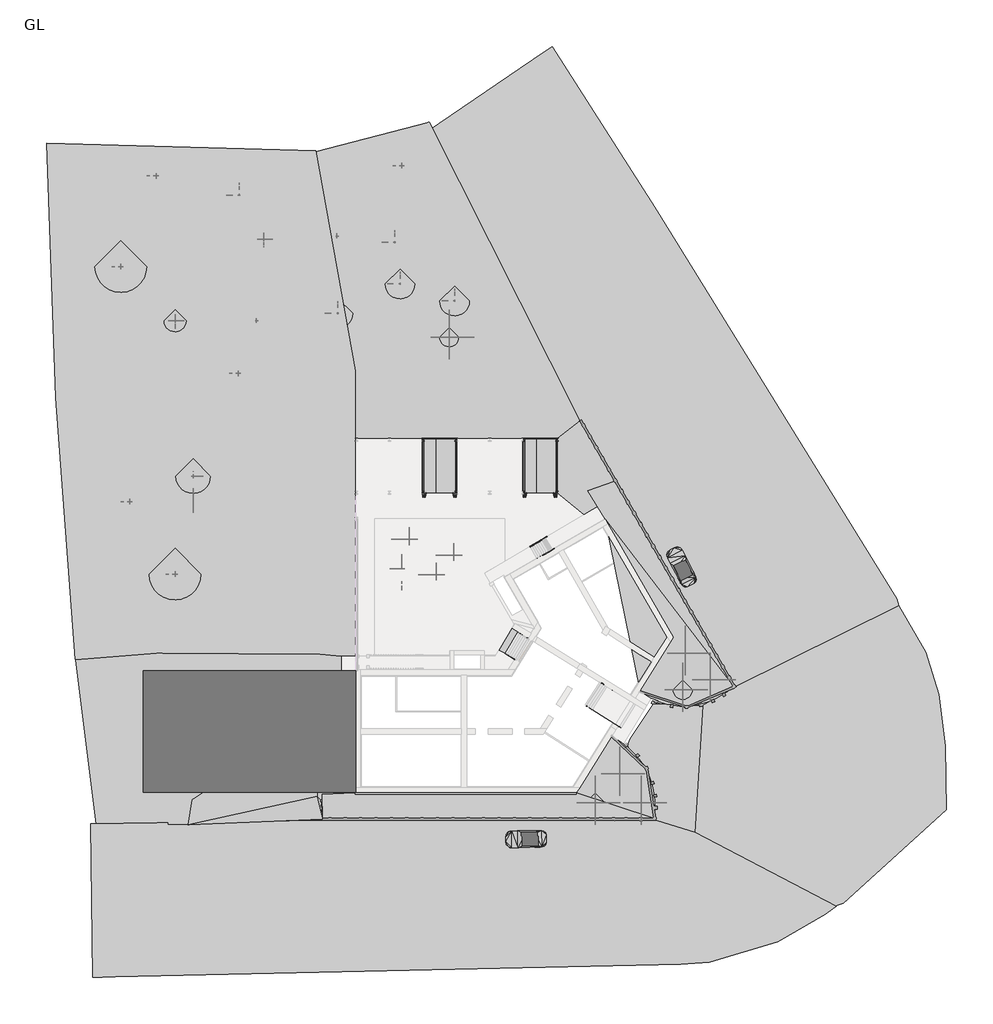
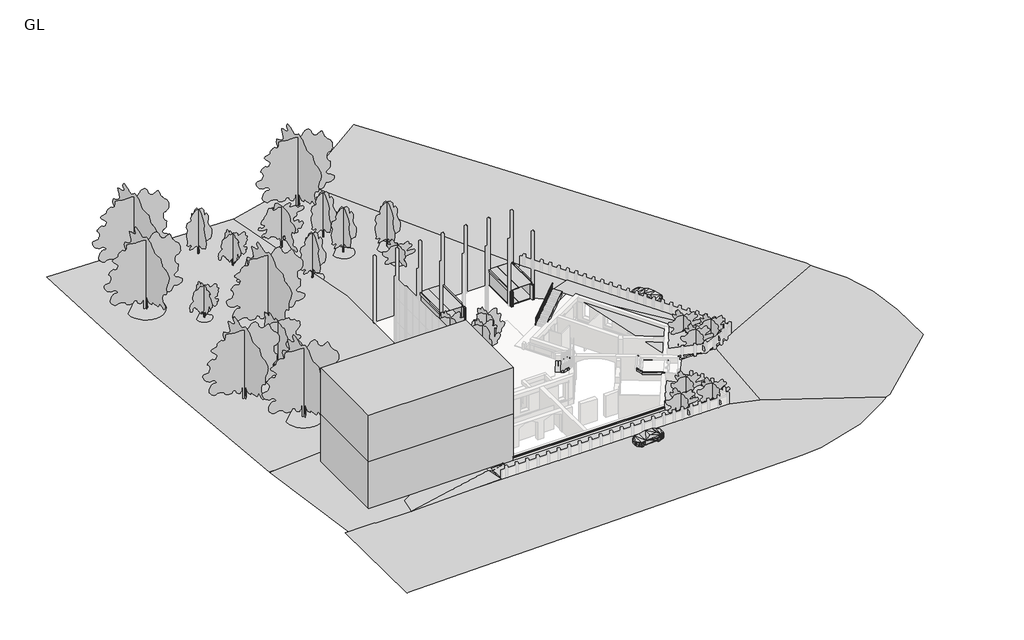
# One storey, part 6 of 6: 29 geographic elements, 18 proxies, 10 members, 1 railing.
"""IFC4 building model written with IfcOpenShell, lengths in millimetres."""

from ifc_helpers import new_model, si_unit, frame, origin, origin_with_axes, place, context, project, spatial, polyline, outline, extrude, faceted_brep, triangles, transform, mapped, element, save
from components import metal_blocks12_metal_blocks12_015d9ee2, enscape_assetdefinition_car_006_enscape_assetdefinition_car_d59dc931, enscape_assetdefinition_car_006_enscape_assetdefinition_car_de8ea857, planting_rpc_tree_deciduous_american_beech_6_0_meters_192016b0, planting_rpc_tree_deciduous_blue_berry_elder_4_5_meters_08da9c25, planting_rpc_tree_deciduous_golden_chain_5_5_meters_a00e3d8d, planting_rpc_tree_deciduous_hawthorn_7_4_meters_c28d403f, planting_rpc_tree_deciduous_kousa_dogwood_3_0_meters_e0625334, planting_rpc_tree_deciduous_red_ash_7_6_meters_16c8020d, planting_rpc_tree_deciduous_scarlet_oak_12_5_meters_78a4568a, planting_rpc_tree_deciduous_shumard_oak_9_1_meters_5c09a096

model = new_model("IFC4")

# Units and contexts
model_context = context("Model", 3, world=origin())
ifc_project = project(units=[si_unit("LENGTHUNIT", "METRE", prefix="MILLI")], contexts=[model_context])

# Site, building, storey
site = spatial("IfcSite", under=ifc_project)
building = spatial("IfcBuilding", under=site)
storey = spatial("IfcBuildingStorey", under=building, Name="GL", Elevation=0.0)

# Proxies
placement = place(None, origin())
element("IfcBuildingElementProxy", 1, Name="Building Element Proxy", at=placement, inside=storey, context=model_context, shape_type="Tessellation", body=[
    triangles([(-13431.6871216, -4009.9712242, 150.0000011), (-17048.7349457, -4137.4605354, 150.0000011), (-17011.6093048, -6794.9712891, 150.0000011), (19598.2409546, -6794.9712891, 150.0000011), (11034.8729553, -4009.9712242, 150.0000011)], [[2, 3, 1], [3, 5, 1], [5, 3, 4]], closed=False),
])
element("IfcBuildingElementProxy", 2, Name="Building Element Proxy", at=placement, inside=storey, context=model_context, shape_type="Tessellation", body=[
    triangles([(11034.8729553, -4009.9712242, 150.0000011), (14914.6617188, 2217.8670948, 150.0000011), (15665.3193878, 1814.3189072, 150.0000011), (16058.8674591, 1561.0352394, 150.0000011), (16536.2232056, 1209.3204432, 150.0000011), (16908.2132904, 896.4967323, 150.0000011), (17569.2520111, 237.6954841, 150.0000011), (17952.2937469, -220.8045274, 150.0000011), (18303.4071991, -707.7867393, 150.0000011), (18631.5069397, -1240.9075413, 150.0000011), (18917.1267151, -1792.9856163, 150.0000011), (19156.994632, -2353.8518177, 150.0000011), (19377.9753296, -3005.6749672, 150.0000011), (19550.6833923, -3701.7606766, 150.0000011), (19657.3419983, -4358.9885834, 150.0000011), (19705.1321045, -4892.1705734, 150.0000011), (19719.0335815, -5375.329454, 150.0000011), (19696.0187073, -5996.8124496, 150.0000011), (19637.5408813, -6542.7459869, 150.0000011), (19598.2409546, -6794.9712891, 150.0000011)], [[1, 7, 6], [7, 1, 8], [1, 9, 8], [9, 1, 10], [1, 11, 10], [2, 1, 3], [4, 3, 1], [1, 5, 4], [1, 6, 5], [19, 18, 1], [16, 1, 17], [17, 1, 18], [15, 1, 16], [1, 12, 11], [14, 13, 1], [12, 1, 13], [1, 15, 14], [20, 19, 1]], closed=False),
])
element("IfcBuildingElementProxy", 3, Name="Building Element Proxy", at=placement, inside=storey, context=model_context, shape_type="Tessellation", body=[
    triangles([(15261.9428467, 30451.4645325, 150.0000011), (12299.6573822, 29391.5455078, 150.0000011), (14217.1612701, 26261.0784485, 150.0000011), (28356.9481934, 7770.2489685, 150.0000011), (23405.7852905, 13280.451004, 150.0000011)], [[2, 3, 1], [1, 5, 4], [5, 1, 3]], closed=False),
])
element("IfcBuildingElementProxy", 4, Name="Building Element Proxy", at=placement, inside=storey, context=model_context, shape_type="Tessellation", body=[
    triangles([(23417.9543152, 13259.3708954, 150.0000011), (28356.9481934, 7770.2489685, 150.0000011), (28098.5290833, 7532.821019, 150.0000011), (27884.3189026, 7351.3954651, 150.0000011), (27694.0258667, 7200.8587234, 150.0000011), (27480.836554, 7043.1811386, 150.0000011), (27238.3350769, 6876.8918701, 150.0000011), (26894.0816711, 6662.7950546, 150.0000011), (26490.9155823, 6441.974231, 150.0000011), (26184.7179932, 6294.0733749, 150.0000011), (25952.725177, 6192.6725876, 150.0000011), (25426.5177612, 5994.6416519, 150.0000011), (25069.5953613, 5884.1832779, 150.0000011), (24713.0380554, 5792.1098282, 150.0000011), (24416.935199, 5729.0514679, 150.0000011), (24201.8460022, 5690.6857864, 150.0000011), (23833.6568481, 5639.2540421, 150.0000011), (23491.3916931, 5607.3100616, 150.0000011), (23207.2648499, 5484.6995224, 150.0000011), (22935.64422, 5587.5473145, 150.0000011), (22417.9781433, 5604.6916168, 150.0000011), (22125.0704407, 5629.6488144, 150.0000011), (21520.6119873, 5716.5719971, 150.0000011), (21047.8710754, 5818.7041351, 150.0000011), (20704.1711243, 5912.5158508, 150.0000011), (20497.2000366, 5977.2398071, 150.0000011), (20182.5657532, 6087.9225861, 150.0000011), (19874.9426697, 6211.0598373, 150.0000011), (19623.844043, 6323.0431183, 150.0000011), (19311.4828766, 6477.5482224, 150.0000011), (18333.8216217, 7083.9838806, 150.0000011), (18070.7155884, 7283.9635345, 150.0000011), (20034.2422485, 10622.1028015, 150.0000011), (21757.1510376, 13201.4325714, 150.0000011), (18881.0417084, 18183.0005951, 150.0000011), (14217.1612701, 26261.0784485, 150.0000011)], [[33, 26, 25], [33, 27, 26], [33, 25, 24], [18, 33, 20], [19, 20, 21], [33, 23, 22], [21, 22, 19], [33, 22, 21], [33, 24, 23], [33, 21, 20], [35, 32, 33], [36, 35, 1], [35, 36, 32], [32, 31, 33], [29, 28, 33], [29, 33, 30], [28, 27, 33], [33, 34, 35], [30, 33, 31], [33, 1, 34], [35, 34, 1], [20, 19, 18], [17, 16, 33], [17, 18, 19], [16, 15, 33], [15, 16, 19], [17, 19, 16], [1, 33, 15], [1, 14, 13], [12, 11, 1], [12, 1, 13], [1, 15, 14], [1, 11, 10], [9, 8, 1], [1, 7, 6], [7, 1, 8], [9, 1, 10], [4, 1, 5], [3, 2, 1], [1, 4, 3], [5, 1, 6], [1, 2, 36], [17, 33, 18]], closed=False),
])
element("IfcBuildingElementProxy", 5, Name="Building Element Proxy", at=placement, inside=storey, context=model_context, shape_type="Tessellation", body=[
    triangles([(-14931.6874237, 11097.2005463, 150.0000011), (-14931.6874237, 5145.617894, 150.0000011), (-15351.6873688, 5125.5545837, 150.0000011), (-17337.4475555, 11338.3544312, 150.0000011), (-18555.2743835, 10012.2760712, 150.0000011), (-18122.2694183, 6575.3003952, 150.0000011), (-18095.205954, 3977.2708946, 150.0000011), (-17878.7040527, 2028.7488419, 150.0000011), (-15331.6874268, 2885.5546829, 150.0000011), (-15351.6873688, 245.5547972, 150.0000011), (-14931.6874237, -488.0921914, 150.0000011), (-17499.8248535, -2734.3051941, 150.0000011), (-17635.1386871, -3816.8173164, 150.0000011), (-17635.1386871, -4358.0735229, 150.0000011), (-17229.1971863, -4764.0156052, 150.0000011), (-14931.6874237, -4141.5710403, 150.0000011), (-31492.8684082, -4782.902243, 1.5), (-35381.5729065, 11412.4057251, 1.5), (-17011.6093048, -6902.4711227, 1.5), (-31954.9588074, -7534.4238281, 1.5), (-42019.6072632, -7454.8612427, 1.5), (-44315.2345825, 10731.0194092, 1.5)], [[21, 20, 17], [17, 14, 13], [14, 17, 20], [13, 14, 15], [8, 17, 12], [20, 19, 14], [21, 17, 18], [18, 6, 5], [18, 22, 21], [18, 5, 4], [3, 6, 7], [7, 6, 18], [7, 18, 17], [9, 7, 8], [8, 7, 17], [5, 6, 1], [17, 13, 12], [13, 16, 12], [13, 15, 16], [16, 11, 12], [11, 2, 9], [16, 15, 19], [14, 19, 15], [12, 11, 10], [3, 1, 6], [8, 10, 9], [9, 3, 7], [5, 1, 4], [2, 1, 3], [9, 10, 11], [12, 10, 8], [2, 3, 9]], closed=False),
])
element("IfcBuildingElementProxy", 6, Name="Building Element Proxy", at=placement, inside=storey, context=model_context, shape_type="Tessellation", body=[
    triangles([(3954.3705482, 14193.2778442, 150.0000011), (4606.331044, 13782.0355042, 150.0000011), (3181.5296402, 11410.767453, 150.0000011), (2522.5091103, 11788.0886078, 150.0000011)], [[4, 3, 2], [2, 1, 4]], closed=False),
])
element("IfcBuildingElementProxy", 7, Name="Building Element Proxy", at=placement, inside=storey, context=model_context, shape_type="Tessellation", body=[
    triangles([(11585.0126312, 37250.0937378, 0.0), (25695.1757812, 44250.4059814, 0.0), (46461.0710449, 17442.7969391, 0.0), (28626.4294189, 7733.4948166, 0.0), (46698.5449219, 16662.788736, 0.0), (3561.642485, 50644.9365967, 1.5), (16309.6940094, 58830.6927612, 1.5), (18025.4055634, 59653.1123291, 1.5), (19697.3744385, 60767.7605713, 1.5), (10687.3174255, 71171.1255615, 1.5), (7436.2664474, 77859.001062, 1.5), (8365.1382385, 78509.2078857, 1.5), (-5382.164502, 69127.6084351, 1.5)], [[10, 13, 6], [1, 6, 4], [7, 10, 6], [11, 10, 12], [10, 11, 13], [12, 10, 9], [11, 12, 13], [6, 1, 7], [4, 5, 3], [4, 3, 2], [8, 9, 10], [8, 7, 2], [9, 2, 3], [2, 9, 8], [1, 2, 7], [8, 10, 7], [2, 1, 4]], closed=False),
])
element("IfcBuildingElementProxy", 8, Name="Building Element Proxy", at=placement, inside=storey, context=model_context, shape_type="Tessellation", body=[
    triangles([(28626.4294189, 7733.4948166, 0.0), (27448.5199219, 6707.5132553, 0.0), (26335.3204285, 6077.4842697, 0.0), (24978.9567078, 5636.5635086, 0.0), (38502.4917114, -9463.8450119, 0.0), (32668.1873657, -11285.1286102, 0.0), (29648.4716858, -12040.0569489, 0.0), (26399.9908997, -12017.1804382, 0.0), (23906.4384521, -11674.0316162, 0.0), (29625.6219177, -18458.5058716, 0.0), (26546.4959106, -21047.7687561, 0.0), (23327.4110046, -20697.8691833, 0.0), (40542.5206787, -16219.1413971, 0.0), (45021.2473022, -11670.4341614, 0.0), (51949.2802368, -5862.0840454, 0.0), (51809.3213379, 1205.9077154, 0.0), (51109.5175415, 6874.297261, 0.0), (49639.9374756, 11562.9651398, 0.0), (47680.4942871, 14502.1299225, 0.0), (46700.7726929, 16671.5137848, 0.0)], [[12, 8, 9], [8, 12, 10], [10, 7, 8], [10, 11, 13], [7, 10, 6], [10, 12, 11], [8, 7, 4], [9, 4, 12], [9, 8, 4], [2, 1, 4], [4, 7, 3], [2, 3, 6], [2, 4, 3], [2, 5, 1], [6, 3, 7], [1, 5, 17], [5, 6, 13], [13, 15, 14], [14, 15, 5], [13, 14, 5], [6, 10, 13], [5, 15, 16], [20, 19, 18], [1, 19, 20], [18, 19, 1], [17, 18, 1], [16, 17, 5], [2, 6, 5]], closed=False),
])
element("IfcBuildingElementProxy", 9, Name="Building Element Proxy", at=placement, inside=storey, context=model_context, shape_type="Tessellation", body=[
    triangles([(19465.615329, 6160.0408585, 0.0), (19299.1371185, 5925.6510956, 0.0), (19533.5937378, 5772.7627533, 0.0), (20401.7640015, 5782.3313553, 0.0)], [[1, 2, 3], [3, 4, 1]], closed=False),
])
element("IfcBuildingElementProxy", 10, Name="Building Element Proxy", at=placement, inside=storey, context=model_context, shape_type="Tessellation", body=[
    triangles([(20392.0204102, 5785.5753433, 0.0), (19533.5937378, 5772.7627533, 0.0), (17016.9903717, 1966.6950714, 0.0), (17928.6777466, 218.2412755, 0.0), (16756.4062775, 1349.2060181, 0.0), (16735.5901062, 1325.1115585, 0.0), (18937.0185242, -1351.6791229, 0.0), (19429.3640533, -2469.5716438, 0.0), (21836.4531738, 5448.0500153, 0.0), (23215.0946045, 5334.9040146, 0.0), (19900.1760132, -4612.1632462, 0.0), (19777.5788452, -7009.9709564, 0.0), (24101.5963074, 5457.5500168, 0.0), (24670.5708801, 5561.9907349, 0.0), (24992.5349487, 5640.1446854, 0.0), (24052.6132507, -8345.8684845, 0.0), (24096.2384949, -8392.6941147, 0.0)], [[1, 3, 4], [6, 11, 7], [10, 7, 8], [7, 11, 8], [7, 4, 6], [9, 4, 7], [6, 5, 3], [5, 6, 4], [3, 5, 4], [3, 1, 2], [12, 11, 6], [10, 9, 7], [10, 8, 13], [16, 15, 8], [16, 11, 12], [12, 17, 16], [15, 16, 17], [1, 9, 13], [1, 4, 9], [14, 15, 1], [13, 8, 14], [14, 8, 15], [14, 1, 13], [9, 10, 13], [8, 11, 16]], closed=False),
])
element("IfcBuildingElementProxy", 11, Name="Building Element Proxy", at=placement, inside=storey, context=model_context, shape_type="Tessellation", body=[
    triangles([(19825.9572876, -7024.7694717, 0.0), (24100.0010559, -8378.5287003, 0.0), (23332.0711853, -20695.2274841, 0.0), (-15307.1691559, -23072.6056274, 0.0), (-17011.6093048, -7009.9709564, 0.0), (-42444.1487915, -24409.7867981, 1.5), (-42629.9234985, -7411.4319168, 1.5), (22556.4348083, -22937.909198, 0.0), (25709.9725525, -22704.3141541, 0.0), (33301.8231079, -20485.1589111, 0.0), (35988.1684387, -18499.5975494, 0.0), (38557.718573, -17448.418689, 0.0), (39752.6665649, -16514.3966309, 0.0)], [[6, 8, 4], [4, 8, 1], [6, 4, 5], [6, 5, 7], [5, 4, 1], [8, 3, 1], [3, 9, 10], [9, 3, 8], [3, 10, 2], [2, 11, 13], [11, 2, 10], [12, 13, 11], [11, 10, 12], [3, 2, 1]], closed=False),
])
element("IfcBuildingElementProxy", 12, Name="Building Element Proxy", at=placement, inside=storey, context=model_context, shape_type="Tessellation", body=[
    triangles([(13410.7011932, 27655.4747314, 1.5), (11909.8160614, 26773.2983459, 1.5), (8903.2978317, 29190.0299011, 1.5), (8958.2973816, 35190.0287842, 1.5), (11398.8170197, 37142.5956482, 1.5), (15203.7533752, 30469.993634, 1.5)], [[4, 6, 5], [6, 4, 3], [1, 6, 3], [1, 3, 2]], closed=False),
])
element("IfcBuildingElementProxy", 13, Name="Building Element Proxy", at=placement, inside=storey, context=model_context, shape_type="Tessellation", body=[
    triangles([(11398.8170197, 37142.5956482, 1.5), (8928.2974686, 35190.0287842, 1.5), (-13431.6871216, 35190.0287842, 1.5), (-13532.4414368, 42504.8009033, 1.5), (2769.6565247, 49758.293042, 1.5), (3752.3500305, 50713.6858887, 1.5), (-15059.9063416, 50539.766272, 1.5), (-299.3238081, 56227.9911621, 1.5), (492.707462, 56516.0014893, 1.5), (-17771.8733643, 66889.1264648, 1.5), (-7211.2511124, 69557.0752441, 1.5), (-5210.291272, 70112.8971313, 1.5)], [[7, 3, 4], [3, 7, 10], [5, 7, 4], [8, 11, 7], [10, 11, 12], [11, 10, 7], [8, 12, 11], [4, 3, 2], [5, 2, 1], [5, 8, 7], [5, 1, 6], [8, 6, 9], [6, 8, 5], [6, 1, 12], [8, 9, 12], [12, 9, 6], [5, 4, 2]], closed=False),
])
element("IfcBuildingElementProxy", 14, Name="Building Element Proxy", at=placement, inside=storey, context=model_context, shape_type="Tessellation", body=[
    triangles([(-14931.6874237, 11097.2005463, 1.5), (-13506.6871948, 11710.0282562, 1.5), (-13381.1878784, 13250.0284424, 1.5), (-13381.1878784, 11420.0285156, 1.5), (-13431.6871216, 11097.2005463, 1.5), (-13431.6871216, 35190.0287842, 1.5), (-20414.4283447, 34360.9863647, 1.5), (-18494.3071747, 10121.8193848, 1.5), (-20379.2258423, 40628.2084717, 1.5), (-13702.9694, 42594.5349609, 1.5), (-13393.7557159, 42658.7217407, 1.5), (-44379.9934204, 10795.7805725, 1.5), (-46517.0955322, 39679.0152466, 1.5), (-45793.6745728, 46478.1676758, 1.5), (-14988.3025726, 50538.4733276, 1.5), (-47540.7446777, 67824.8646973, 1.5), (-17771.8733643, 67000.2917725, 1.5)], [[13, 12, 7], [6, 9, 7], [8, 7, 12], [13, 7, 9], [16, 14, 17], [14, 16, 13], [14, 15, 17], [9, 15, 14], [14, 13, 9], [7, 8, 3], [1, 2, 3], [2, 1, 5], [5, 4, 2], [1, 8, 5], [2, 4, 3], [15, 10, 11], [15, 9, 10], [6, 3, 11], [9, 6, 10], [6, 11, 10], [3, 6, 7], [15, 11, 17], [8, 1, 3]], closed=False),
])
element("IfcBuildingElementProxy", 15, Name="Cornice", ObjectType="Cornice", at=placement, inside=storey, context=model_context, shape_type="SweptSolid", body=[
    extrude(outline(polyline([(-13431.6874983, -4162.3711746), (-13431.6874983, -4009.9711746), (11034.8726536, -4009.9711746), (11034.8726536, -4162.3711746), (-13431.6874983, -4162.3711746)])), frame((0.0, 0.0, 700.0), z_axis=(0.0, 0.0, 1.0), x_axis=(1.0, 0.0, 0.0)), (0.0, 0.0, 1.0), 152.4),
])
element("IfcBuildingElementProxy", 16, Name="Mass 1 : Mass 1", ObjectType="Mass 1 : Mass 1", at=placement, inside=storey, context=model_context, shape_type="SweptSolid", body=[
    extrude(outline(polyline([(-13331.6874983, 9490.0288254), (-13331.6874983, -3909.9711746), (-36840.6282866, -3909.9711746), (-36840.6282866, 9490.0288254), (-13331.6874983, 9490.0288254)])), origin_with_axes(), (0.0, 0.0, 1.0), 8000.0),
    extrude(outline(polyline([(-36840.6282866, -3909.9711746), (-36840.6282866, 9490.0288254), (-13331.6874983, 9490.0288254), (-13331.6874983, -3909.9711746), (-36840.6282866, -3909.9711746)])), frame((0.0, 0.0, 8000.0), z_axis=(0.0, 0.0, 1.0), x_axis=(1.0, 0.0, 0.0)), (0.0, 0.0, 1.0), 8000.0),
    extrude(outline(polyline([(-36840.6282866, 9490.0288254), (-13331.6874983, 9490.0288254), (-13331.6874983, -3909.9711746), (-36840.6282866, -3909.9711746), (-36840.6282866, 9490.0288254)])), origin_with_axes(), (0.0, 0.0, 1.0), 8000.0),
])
metal_blocks12_metal_blocks12_shape = metal_blocks12_metal_blocks12_015d9ee2(model_context)
element("IfcBuildingElementProxy", 17, Name="metal blocks12 : metal blocks12", ObjectType="metal blocks12 : metal blocks12", at=placement, inside=storey, context=model_context, shape_type="MappedRepresentation", body=[
    mapped(metal_blocks12_metal_blocks12_shape, transform((8873.2976061, 29190.0288254, 0.0), x_axis=(0.0, 1.0, 0.0), y_axis=(-1.0, 0.0, 0.0), z_axis=(0.0, 0.0, 1.0))),
])
element("IfcBuildingElementProxy", 18, Name="metal blocks12 : metal blocks12", ObjectType="metal blocks12 : metal blocks12", at=placement, inside=storey, context=model_context, shape_type="MappedRepresentation", body=[
    mapped(metal_blocks12_metal_blocks12_shape, transform((-2252.8874983, 29190.0288254, 0.0), x_axis=(0.0, 1.0, 0.0), y_axis=(-1.0, 0.0, 0.0), z_axis=(0.0, 0.0, 1.0))),
])

# Geographic elements
enscape_assetdefinition_car_006_enscape_assetdefinition_car_shape = enscape_assetdefinition_car_006_enscape_assetdefinition_car_d59dc931(model_context)
element("IfcGeographicElement", 19, ObjectType="Enscape AssetDefinition - Car 006 : Enscape AssetDefinition - Car 006", at=placement, inside=storey, context=model_context, shape_type="MappedRepresentation", body=[
    mapped(enscape_assetdefinition_car_006_enscape_assetdefinition_car_shape, transform((22537.2620315, 21218.394497, 0.0), x_axis=(0.8910065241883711, 0.45399049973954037, 0.0), y_axis=(-0.45399049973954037, 0.8910065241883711, 0.0), z_axis=(0.0, 0.0, 1.0))),
])
enscape_assetdefinition_car_006_enscape_assetdefinition_car_2_shape = enscape_assetdefinition_car_006_enscape_assetdefinition_car_de8ea857(model_context)
element("IfcGeographicElement", 20, ObjectType="Enscape AssetDefinition - Car 006 : Enscape AssetDefinition - Car 006", at=placement, inside=storey, context=model_context, shape_type="MappedRepresentation", body=[
    mapped(enscape_assetdefinition_car_006_enscape_assetdefinition_car_2_shape, transform((5206.6599203, -9124.5710134, 0.0), x_axis=(0.01745240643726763, -0.9998476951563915, 0.0), y_axis=(0.9998476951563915, 0.01745240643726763, 0.0), z_axis=(0.0, 0.0, 1.0))),
])
planting_rpc_tree_deciduous_american_beech_6_0_meters_shape = planting_rpc_tree_deciduous_american_beech_6_0_meters_192016b0(model_context)
element("IfcGeographicElement", 21, ObjectType="Planting_RPC_Tree_Deciduous : American_Beech-6.0_Meters", at=placement, inside=storey, context=model_context, shape_type="MappedRepresentation", body=[
    mapped(planting_rpc_tree_deciduous_american_beech_6_0_meters_shape, transform((-2531.9484639, 22290.0288254, 0.0), x_axis=(1.0, 0.0, 0.0), y_axis=(0.0, 1.0, 0.0), z_axis=(0.0, 0.0, 1.0))),
])
element("IfcGeographicElement", 22, ObjectType="Planting_RPC_Tree_Deciduous : American_Beech-6.0_Meters", at=placement, inside=storey, context=model_context, shape_type="MappedRepresentation", body=[
    mapped(planting_rpc_tree_deciduous_american_beech_6_0_meters_shape, transform((-4461.6874983, 20118.1785182, 0.0), x_axis=(1.0, 0.0, 0.0), y_axis=(0.0, 1.0, 0.0), z_axis=(0.0, 0.0, 1.0))),
])
element("IfcGeographicElement", 23, ObjectType="Planting_RPC_Tree_Deciduous : American_Beech-6.0_Meters", at=placement, inside=storey, context=model_context, shape_type="MappedRepresentation", body=[
    mapped(planting_rpc_tree_deciduous_american_beech_6_0_meters_shape, transform((-7461.6874983, 24035.1182516, 0.0), x_axis=(1.0, 0.0, 0.0), y_axis=(0.0, 1.0, 0.0), z_axis=(0.0, 0.0, 1.0))),
])
planting_rpc_tree_deciduous_blue_berry_elder_4_5_meters_shape = planting_rpc_tree_deciduous_blue_berry_elder_4_5_meters_08da9c25(model_context)
element("IfcGeographicElement", 24, ObjectType="Planting_RPC_Tree_Deciduous : Blue_Berry_Elder-4.5_Meters", at=placement, inside=storey, context=model_context, shape_type="MappedRepresentation", body=[
    mapped(planting_rpc_tree_deciduous_blue_berry_elder_4_5_meters_shape, transform((-8261.6874983, 20790.0288254, 0.0), x_axis=(1.0, 0.0, 0.0), y_axis=(0.0, 1.0, 0.0), z_axis=(0.0, 0.0, 1.0))),
])
planting_rpc_tree_deciduous_golden_chain_5_5_meters_shape = planting_rpc_tree_deciduous_golden_chain_5_5_meters_a00e3d8d(model_context)
element("IfcGeographicElement", 25, ObjectType="Planting_RPC_Tree_Deciduous : Golden_Chain-5.5_Meters", at=placement, inside=storey, context=model_context, shape_type="MappedRepresentation", body=[
    mapped(planting_rpc_tree_deciduous_golden_chain_5_5_meters_shape, transform((-23501.2555305, 57190.0288254, 1.5), x_axis=(1.0, 0.0, 0.0), y_axis=(0.0, 1.0, 0.0), z_axis=(0.0, 0.0, 1.0))),
])
element("IfcGeographicElement", 26, ObjectType="Planting_RPC_Tree_Deciduous : Golden_Chain-5.5_Meters", at=placement, inside=storey, context=model_context, shape_type="MappedRepresentation", body=[
    mapped(planting_rpc_tree_deciduous_golden_chain_5_5_meters_shape, transform((-33331.6874983, 48190.0288254, 1.5), x_axis=(1.0, 0.0, 0.0), y_axis=(0.0, 1.0, 0.0), z_axis=(0.0, 0.0, 1.0))),
])
planting_rpc_tree_deciduous_hawthorn_7_4_meters_shape = planting_rpc_tree_deciduous_hawthorn_7_4_meters_c28d403f(model_context)
element("IfcGeographicElement", 27, ObjectType="Planting_RPC_Tree_Deciduous : Hawthorn-7.4_Meters", at=placement, inside=storey, context=model_context, shape_type="MappedRepresentation", body=[
    mapped(planting_rpc_tree_deciduous_hawthorn_7_4_meters_shape, transform((-24331.6874983, 48190.0288254, 1.5), x_axis=(1.0, 0.0, 0.0), y_axis=(0.0, 1.0, 0.0), z_axis=(0.0, 0.0, 1.0))),
])
element("IfcGeographicElement", 28, ObjectType="Planting_RPC_Tree_Deciduous : Hawthorn-7.4_Meters", at=placement, inside=storey, context=model_context, shape_type="MappedRepresentation", body=[
    mapped(planting_rpc_tree_deciduous_hawthorn_7_4_meters_shape, transform((-15431.6874983, 57548.2811294, 1.5), x_axis=(1.0, 0.0, 0.0), y_axis=(0.0, 1.0, 0.0), z_axis=(0.0, 0.0, 1.0))),
])
planting_rpc_tree_deciduous_kousa_dogwood_3_0_meters_shape = planting_rpc_tree_deciduous_kousa_dogwood_3_0_meters_e0625334(model_context)
element("IfcGeographicElement", 29, ObjectType="Planting_RPC_Tree_Deciduous : Kousa_Dogwood-3.0_Meters", at=placement, inside=storey, context=model_context, shape_type="MappedRepresentation", body=[
    mapped(planting_rpc_tree_deciduous_kousa_dogwood_3_0_meters_shape, transform((-3031.9484639, 46376.8265166, 1.5), x_axis=(1.0, 0.0, 0.0), y_axis=(0.0, 1.0, 0.0), z_axis=(0.0, 0.0, 1.0))),
])
element("IfcGeographicElement", 30, ObjectType="Planting_RPC_Tree_Deciduous : Kousa_Dogwood-3.0_Meters", at=placement, inside=storey, context=model_context, shape_type="MappedRepresentation", body=[
    mapped(planting_rpc_tree_deciduous_kousa_dogwood_3_0_meters_shape, transform((25856.948433, 8501.4322483, 150.0), x_axis=(1.0, 0.0, 0.0), y_axis=(0.0, 1.0, 0.0), z_axis=(0.0, 0.0, 1.0))),
])
element("IfcGeographicElement", 31, ObjectType="Planting_RPC_Tree_Deciduous : Kousa_Dogwood-3.0_Meters", at=placement, inside=storey, context=model_context, shape_type="MappedRepresentation", body=[
    mapped(planting_rpc_tree_deciduous_kousa_dogwood_3_0_meters_shape, transform((22790.9373433, 7401.4322483, 150.0), x_axis=(1.0, 0.0, 0.0), y_axis=(0.0, 1.0, 0.0), z_axis=(0.0, 0.0, 1.0))),
])
element("IfcGeographicElement", 32, ObjectType="Planting_RPC_Tree_Deciduous : Kousa_Dogwood-3.0_Meters", at=placement, inside=storey, context=model_context, shape_type="MappedRepresentation", body=[
    mapped(planting_rpc_tree_deciduous_kousa_dogwood_3_0_meters_shape, transform((23090.9373433, 11442.0608641, 0.0), x_axis=(1.0, 0.0, 0.0), y_axis=(0.0, 1.0, 0.0), z_axis=(0.0, 0.0, 1.0))),
])
element("IfcGeographicElement", 33, ObjectType="Planting_RPC_Tree_Deciduous : Kousa_Dogwood-3.0_Meters", at=placement, inside=storey, context=model_context, shape_type="MappedRepresentation", body=[
    mapped(planting_rpc_tree_deciduous_kousa_dogwood_3_0_meters_shape, transform((18203.6990249, -5109.9711746, 150.0), x_axis=(1.0, 0.0, 0.0), y_axis=(0.0, 1.0, 0.0), z_axis=(0.0, 0.0, 1.0))),
])
element("IfcGeographicElement", 34, ObjectType="Planting_RPC_Tree_Deciduous : Kousa_Dogwood-3.0_Meters", at=placement, inside=storey, context=model_context, shape_type="MappedRepresentation", body=[
    mapped(planting_rpc_tree_deciduous_kousa_dogwood_3_0_meters_shape, transform((13103.6990249, -5109.9711746, 150.0), x_axis=(1.0, 0.0, 0.0), y_axis=(0.0, 1.0, 0.0), z_axis=(0.0, 0.0, 1.0))),
])
element("IfcGeographicElement", 35, ObjectType="Planting_RPC_Tree_Deciduous : Kousa_Dogwood-3.0_Meters", at=placement, inside=storey, context=model_context, shape_type="MappedRepresentation", body=[
    mapped(planting_rpc_tree_deciduous_kousa_dogwood_3_0_meters_shape, transform((15803.6990249, -1909.9711746, 150.0), x_axis=(1.0, 0.0, 0.0), y_axis=(0.0, 1.0, 0.0), z_axis=(0.0, 0.0, 1.0))),
])
planting_rpc_tree_deciduous_red_ash_7_6_meters_shape = planting_rpc_tree_deciduous_red_ash_7_6_meters_16c8020d(model_context)
element("IfcGeographicElement", 36, ObjectType="Planting_RPC_Tree_Deciduous : Red_Ash-7.6_Meters", at=placement, inside=storey, context=model_context, shape_type="MappedRepresentation", body=[
    mapped(planting_rpc_tree_deciduous_red_ash_7_6_meters_shape, transform((-26255.2510156, 62090.0288254, 1.5), x_axis=(1.0, 0.0, 0.0), y_axis=(0.0, 1.0, 0.0), z_axis=(0.0, 0.0, 1.0))),
])
element("IfcGeographicElement", 37, ObjectType="Planting_RPC_Tree_Deciduous : Red_Ash-7.6_Meters", at=placement, inside=storey, context=model_context, shape_type="MappedRepresentation", body=[
    mapped(planting_rpc_tree_deciduous_red_ash_7_6_meters_shape, transform((-2431.9484639, 50378.1828344, 1.5), x_axis=(1.0, 0.0, 0.0), y_axis=(0.0, 1.0, 0.0), z_axis=(0.0, 0.0, 1.0))),
])
element("IfcGeographicElement", 38, ObjectType="Planting_RPC_Tree_Deciduous : Red_Ash-7.6_Meters", at=placement, inside=storey, context=model_context, shape_type="MappedRepresentation", body=[
    mapped(planting_rpc_tree_deciduous_red_ash_7_6_meters_shape, transform((-9058.3506094, 56858.8187351, 1.5), x_axis=(1.0, 0.0, 0.0), y_axis=(0.0, 1.0, 0.0), z_axis=(0.0, 0.0, 1.0))),
])
element("IfcGeographicElement", 39, ObjectType="Planting_RPC_Tree_Deciduous : Red_Ash-7.6_Meters", at=placement, inside=storey, context=model_context, shape_type="MappedRepresentation", body=[
    mapped(planting_rpc_tree_deciduous_red_ash_7_6_meters_shape, transform((-15331.6874983, 49007.6624417, 1.5), x_axis=(1.0, 0.0, 0.0), y_axis=(0.0, 1.0, 0.0), z_axis=(0.0, 0.0, 1.0))),
])
element("IfcGeographicElement", 40, ObjectType="Planting_RPC_Tree_Deciduous : Red_Ash-7.6_Meters", at=placement, inside=storey, context=model_context, shape_type="MappedRepresentation", body=[
    mapped(planting_rpc_tree_deciduous_red_ash_7_6_meters_shape, transform((-8461.6874983, 52261.1699766, 1.5), x_axis=(1.0, 0.0, 0.0), y_axis=(0.0, 1.0, 0.0), z_axis=(0.0, 0.0, 1.0))),
])
planting_rpc_tree_deciduous_scarlet_oak_12_5_meters_shape = planting_rpc_tree_deciduous_scarlet_oak_12_5_meters_78a4568a(model_context)
element("IfcGeographicElement", 41, ObjectType="Planting_RPC_Tree_Deciduous : Scarlet_Oak-12.5_Meters", at=placement, inside=storey, context=model_context, shape_type="MappedRepresentation", body=[
    mapped(planting_rpc_tree_deciduous_scarlet_oak_12_5_meters_shape, transform((-8261.6874983, 65345.5870369, 0.0), x_axis=(1.0, 0.0, 0.0), y_axis=(0.0, 1.0, 0.0), z_axis=(0.0, 0.0, 1.0))),
])
element("IfcGeographicElement", 42, ObjectType="Planting_RPC_Tree_Deciduous : Scarlet_Oak-12.5_Meters", at=placement, inside=storey, context=model_context, shape_type="MappedRepresentation", body=[
    mapped(planting_rpc_tree_deciduous_scarlet_oak_12_5_meters_shape, transform((-33331.6874983, 20190.0288254, 1.5), x_axis=(1.0, 0.0, 0.0), y_axis=(0.0, 1.0, 0.0), z_axis=(0.0, 0.0, 1.0))),
])
element("IfcGeographicElement", 43, ObjectType="Planting_RPC_Tree_Deciduous : Scarlet_Oak-12.5_Meters", at=placement, inside=storey, context=model_context, shape_type="MappedRepresentation", body=[
    mapped(planting_rpc_tree_deciduous_scarlet_oak_12_5_meters_shape, transform((-38331.6874983, 28190.0288254, 0.0), x_axis=(1.0, 0.0, 0.0), y_axis=(0.0, 1.0, 0.0), z_axis=(0.0, 0.0, 1.0))),
])
element("IfcGeographicElement", 44, ObjectType="Planting_RPC_Tree_Deciduous : Scarlet_Oak-12.5_Meters", at=placement, inside=storey, context=model_context, shape_type="MappedRepresentation", body=[
    mapped(planting_rpc_tree_deciduous_scarlet_oak_12_5_meters_shape, transform((-35431.6874983, 64205.5548037, 1.5), x_axis=(1.0, 0.0, 0.0), y_axis=(0.0, 1.0, 0.0), z_axis=(0.0, 0.0, 1.0))),
])
element("IfcGeographicElement", 45, ObjectType="Planting_RPC_Tree_Deciduous : Scarlet_Oak-12.5_Meters", at=placement, inside=storey, context=model_context, shape_type="MappedRepresentation", body=[
    mapped(planting_rpc_tree_deciduous_scarlet_oak_12_5_meters_shape, transform((-39331.6874983, 54190.0288254, 1.5), x_axis=(1.0, 0.0, 0.0), y_axis=(0.0, 1.0, 0.0), z_axis=(0.0, 0.0, 1.0))),
])
element("IfcGeographicElement", 46, ObjectType="Planting_RPC_Tree_Deciduous : Scarlet_Oak-12.5_Meters", at=placement, inside=storey, context=model_context, shape_type="MappedRepresentation", body=[
    mapped(planting_rpc_tree_deciduous_scarlet_oak_12_5_meters_shape, transform((-26331.6874983, 42372.2400659, 1.5), x_axis=(1.0, 0.0, 0.0), y_axis=(0.0, 1.0, 0.0), z_axis=(0.0, 0.0, 1.0))),
])
planting_rpc_tree_deciduous_shumard_oak_9_1_meters_shape = planting_rpc_tree_deciduous_shumard_oak_9_1_meters_5c09a096(model_context)
element("IfcGeographicElement", 47, ObjectType="Planting_RPC_Tree_Deciduous : Shumard_Oak-9.1_Meters", at=placement, inside=storey, context=model_context, shape_type="MappedRepresentation", body=[
    mapped(planting_rpc_tree_deciduous_shumard_oak_9_1_meters_shape, transform((-31331.6874983, 31022.1471423, 1.5), x_axis=(1.0, 0.0, 0.0), y_axis=(0.0, 1.0, 0.0), z_axis=(0.0, 0.0, 1.0))),
])

# Members
element("IfcMember", 48, ObjectType="Stringer-50mm_Width", at=placement, inside=storey, context=model_context, shape_type="SweptSolid", body=[
    extrude(outline(polyline([(266.6666666, -399.9999999), (137.3888461, -206.0832691), (446.5137498, 0.0), (1502.3130314, 0.0), (1768.9796981, -400.0), (266.6666666, -399.9999999)])), frame((4580.5792342, 13739.1768439, -247.6812646), z_axis=(0.5150380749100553, 0.8571673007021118, 0.0), x_axis=(0.7132063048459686, -0.4285375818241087, 0.5547001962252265)), (0.0, 0.0, 1.0), 50.0),
])
element("IfcMember", 49, ObjectType="Stringer-50mm_Width", at=placement, inside=storey, context=model_context, shape_type="SweptSolid", body=[
    extrude(outline(polyline([(266.6666666, -399.9999999), (137.3888461, -206.0832691), (446.5137498, 0.0), (1502.3130315, 1e-07), (1768.9796982, -400.0), (266.6666666, -399.9999999)])), frame((3155.7776017, 11367.9087205, -247.6812646), z_axis=(0.5150380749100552, 0.8571673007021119, 0.0), x_axis=(0.7132063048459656, -0.4285375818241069, 0.5547001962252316)), (0.0, 0.0, 1.0), 50.0),
])
element("IfcMember", 50, ObjectType="Stringer-50mm_Width", at=placement, inside=storey, context=model_context, shape_type="SweptSolid", body=[
    extrude(outline(polyline([(-221.7278533, -332.5917799), (0.0, 0.0), (257.2757987, 0.0), (136.1655436, -400.0), (-120.6155231, -400.0), (-221.7278533, -332.5917799)])), frame((15948.2782207, 3178.7319148, 399.7255721), z_axis=(0.5299192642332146, 0.8480480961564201, 0.0), x_axis=(-0.7056186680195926, 0.44091947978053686, 0.5547001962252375)), (0.0, 0.0, 1.0), 50.0),
])
element("IfcMember", 51, ObjectType="Stringer-50mm_Width", at=placement, inside=storey, context=model_context, shape_type="SweptSolid", body=[
    extrude(outline(polyline([(-221.7278533, -332.5917799), (0.0, 0.0), (257.2757987, 0.0), (136.1655436, -400.0), (-120.6155231, -400.0), (-221.7278533, -332.5917799)])), frame((17564.5319766, 5765.2786081, 399.7255721), z_axis=(0.5299192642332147, 0.8480480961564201, 0.0), x_axis=(-0.7056186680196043, 0.44091947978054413, 0.5547001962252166)), (0.0, 0.0, 1.0), 50.0),
])
element("IfcMember", 52, ObjectType="Stringer-50mm_Width", at=placement, inside=storey, context=model_context, shape_type="SweptSolid", body=[
    extrude(outline(polyline([(-266.6666666, -399.9999999), (0.0, 0.0), (901.3878188, 0.0), (634.7211522, -399.9999999), (-266.6666666, -399.9999999)])), frame((12765.5115149, 5168.7258459, 733.0589054), z_axis=(0.5417604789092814, 0.840532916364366, 0.0), x_axis=(-0.6993656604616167, 0.4507719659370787, 0.5547001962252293)), (0.0, 0.0, 1.0), 50.0),
])
element("IfcMember", 53, ObjectType="Stringer-50mm_Width", at=placement, inside=storey, context=model_context, shape_type="SweptSolid", body=[
    extrude(outline(polyline([(-266.6666666, -399.9999999), (0.0, 0.0), (901.3878189, 0.0), (634.7211523, -400.0), (-266.6666666, -399.9999999)])), frame((14417.8809756, 7732.3512408, 733.0589054), z_axis=(0.5417604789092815, 0.840532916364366, 0.0), x_axis=(-0.6993656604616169, 0.45077196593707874, 0.554700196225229)), (0.0, 0.0, 1.0), 50.0),
])
element("IfcMember", 54, ObjectType="Stringer-50mm_Width", at=placement, inside=storey, context=model_context, shape_type="Brep", body=[
    faceted_brep([(12792.0597535, 5209.9150231, 542.4365081), (12764.9690653, 5167.8842437, 542.4365081), (15766.7396143, 3292.1698262, 542.4365081), (15793.2355775, 3334.572231, 542.4365081), (12792.0597535, 5209.9150231, 142.4365081), (15690.5282562, 3398.7508882, 142.4365081), (12764.9690653, 5167.8842437, 142.4365081), (15664.032293, 3356.3484834, 142.4365081)], [[[0, 1, 2, 3]], [[4, 0, 3, 5]], [[6, 4, 5, 7]], [[1, 6, 7, 2]], [[1, 0, 4, 6]], [[2, 7, 5, 3]]]),
])
element("IfcMember", 55, ObjectType="Stringer-50mm_Width", at=placement, inside=storey, context=model_context, shape_type="Brep", body=[
    faceted_brep([(17382.9933702, 5878.7165194, 542.4365081), (17409.4893334, 5921.1189242, 542.4365081), (14444.5917343, 7773.7925655, 542.4365081), (14417.5010461, 7731.7617861, 542.4365081), (17280.2860489, 5942.8951767, 142.4365081), (14417.5010461, 7731.7617861, 142.4365081), (17306.7820121, 5985.2975815, 142.4365081), (14444.5917343, 7773.7925655, 142.4365081)], [[[0, 1, 2, 3]], [[4, 0, 3, 5]], [[6, 4, 5, 7]], [[1, 6, 7, 2]], [[1, 0, 4, 6]], [[2, 7, 5, 3]]]),
])
element("IfcMember", 56, ObjectType="Stringer-50mm_Width", at=placement, inside=storey, context=model_context, shape_type="SweptSolid", body=[
    extrude(outline(polyline([(264.0, -400.0), (136.0421172, -206.12442), (448.3518445, 0.0), (5691.2850043, 0.0), (5955.2850043, -400.0), (264.0, -400.0)])), frame((5915.735992, 23211.1741566, -246.9711201), z_axis=(-0.5067223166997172, 0.8621093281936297, 0.0), x_axis=(0.7195245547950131, 0.4229152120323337, 0.5508422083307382)), (0.0, 0.0, 1.0), 50.0),
])
element("IfcMember", 57, ObjectType="Stringer-50mm_Width", at=placement, inside=storey, context=model_context, shape_type="SweptSolid", body=[
    extrude(outline(polyline([(264.0, -400.0), (136.0421172, -206.12442), (448.3518445, 0.0), (5691.2850043, 0.0), (5955.2850043, -400.0), (264.0, -400.0)])), frame((6701.1555829, 21874.9046979, -246.9711201), z_axis=(-0.5067223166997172, 0.8621093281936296, 0.0), x_axis=(0.7195245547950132, 0.42291521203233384, 0.5508422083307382)), (0.0, 0.0, 1.0), 50.0),
])

# Railing
element("IfcRailing", 58, ObjectType="1100mm", at=placement, inside=storey, context=model_context, shape_type="SweptSolid", body=[
    extrude(outline(polyline([(33.0, -50.0), (0.0, 0.0), (5691.2850043, 0.0), (5724.2850043, -50.0), (33.0, -50.0)])), frame((5941.2747967, 23167.7238465, 1205.0917368), z_axis=(-0.5067223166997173, 0.8621093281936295, 0.0), x_axis=(0.719524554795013, 0.42291521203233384, 0.5508422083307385)), (0.0, 0.0, 1.0), 50.0),
    extrude(outline(polyline([(1263.8417368, 25.0), (1263.8417368, 0.0), (91.75, 0.0), (108.25, 25.0), (1263.8417368, 25.0)])), frame((9986.8546103, 25560.0951016, 4398.8417368), z_axis=(-0.5067223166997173, 0.8621093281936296, 0.0), x_axis=(0.0, 0.0, -1.0)), (0.0, 0.0, 1.0), 25.0),
    extrude(outline(polyline([(1181.3417368, 25.0000001), (1181.3417368, 0.0), (91.75, 0.0), (108.25, 25.0000001), (1181.3417368, 25.0000001)])), frame((9879.0909443, 25496.754812, 4316.3417368), z_axis=(-0.5067223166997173, 0.8621093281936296, 0.0), x_axis=(0.0, 0.0, -1.0)), (0.0, 0.0, 1.0), 25.0),
    extrude(outline(polyline([(1263.8417368, 25.0), (1263.8417368, 0.0), (91.75, 0.0), (108.25, 25.0), (1263.8417368, 25.0)])), frame((9771.3272782, 25433.4145224, 4233.8417368), z_axis=(-0.5067223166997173, 0.8621093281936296, 0.0), x_axis=(0.0, 0.0, -1.0)), (0.0, 0.0, 1.0), 25.0),
    extrude(outline(polyline([(1181.3417368, 25.0), (1181.3417368, 0.0), (91.75, 0.0), (108.25, 25.0), (1181.3417368, 25.0)])), frame((9663.5636122, 25370.0742328, 4151.3417368), z_axis=(-0.5067223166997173, 0.8621093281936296, 0.0), x_axis=(0.0, 0.0, -1.0)), (0.0, 0.0, 1.0), 25.0),
    extrude(outline(polyline([(1263.8417368, 25.0), (1263.8417368, 0.0), (91.75, 0.0), (108.25, 25.0), (1263.8417368, 25.0)])), frame((9555.7999462, 25306.7339432, 4068.8417368), z_axis=(-0.5067223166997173, 0.8621093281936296, 0.0), x_axis=(0.0, 0.0, -1.0)), (0.0, 0.0, 1.0), 25.0),
    extrude(outline(polyline([(1181.3417368, 25.0), (1181.3417368, 0.0), (91.75, 0.0), (108.25, 25.0), (1181.3417368, 25.0)])), frame((9448.0362802, 25243.3936536, 3986.3417368), z_axis=(-0.5067223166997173, 0.8621093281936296, 0.0), x_axis=(0.0, 0.0, -1.0)), (0.0, 0.0, 1.0), 25.0),
    extrude(outline(polyline([(1263.8417368, 25.0), (1263.8417368, 0.0), (91.75, 0.0), (108.25, 25.0), (1263.8417368, 25.0)])), frame((9340.2726141, 25180.0533641, 3903.8417368), z_axis=(-0.5067223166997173, 0.8621093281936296, 0.0), x_axis=(0.0, 0.0, -1.0)), (0.0, 0.0, 1.0), 25.0),
    extrude(outline(polyline([(1181.3417368, 25.0), (1181.3417368, 0.0), (91.75, 0.0), (108.25, 25.0), (1181.3417368, 25.0)])), frame((9232.5089481, 25116.7130745, 3821.3417368), z_axis=(-0.5067223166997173, 0.8621093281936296, 0.0), x_axis=(0.0, 0.0, -1.0)), (0.0, 0.0, 1.0), 25.0),
    extrude(outline(polyline([(1263.8417368, 25.0), (1263.8417368, 0.0), (91.75, 0.0), (108.25, 25.0), (1263.8417368, 25.0)])), frame((9124.7452821, 25053.3727849, 3738.8417368), z_axis=(-0.5067223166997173, 0.8621093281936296, 0.0), x_axis=(0.0, 0.0, -1.0)), (0.0, 0.0, 1.0), 25.0),
    extrude(outline(polyline([(1181.3417368, 25.0), (1181.3417368, 0.0), (91.75, 0.0), (108.25, 25.0), (1181.3417368, 25.0)])), frame((9016.9816161, 24990.0324953, 3656.3417368), z_axis=(-0.5067223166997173, 0.8621093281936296, 0.0), x_axis=(0.0, 0.0, -1.0)), (0.0, 0.0, 1.0), 25.0),
    extrude(outline(polyline([(1263.8417368, 25.0), (1263.8417368, 0.0), (91.75, 0.0), (108.25, 25.0), (1263.8417368, 25.0)])), frame((8909.21795, 24926.6922057, 3573.8417368), z_axis=(-0.5067223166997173, 0.8621093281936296, 0.0), x_axis=(0.0, 0.0, -1.0)), (0.0, 0.0, 1.0), 25.0),
    extrude(outline(polyline([(1181.3417368, 25.0), (1181.3417368, 0.0), (91.75, 0.0), (108.25, 25.0), (1181.3417368, 25.0)])), frame((8801.454284, 24863.3519161, 3491.3417368), z_axis=(-0.5067223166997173, 0.8621093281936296, 0.0), x_axis=(0.0, 0.0, -1.0)), (0.0, 0.0, 1.0), 25.0),
    extrude(outline(polyline([(1263.8417368, 25.0), (1263.8417368, 0.0), (91.75, 0.0), (108.25, 25.0), (1263.8417368, 25.0)])), frame((8693.690618, 24800.0116265, 3408.8417368), z_axis=(-0.5067223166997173, 0.8621093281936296, 0.0), x_axis=(0.0, 0.0, -1.0)), (0.0, 0.0, 1.0), 25.0),
    extrude(outline(polyline([(1181.3417368, 25.0), (1181.3417368, 0.0), (91.75, 0.0), (108.25, 25.0), (1181.3417368, 25.0)])), frame((8585.926952, 24736.6713369, 3326.3417368), z_axis=(-0.5067223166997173, 0.8621093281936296, 0.0), x_axis=(0.0, 0.0, -1.0)), (0.0, 0.0, 1.0), 25.0),
    extrude(outline(polyline([(1263.8417368, 25.0), (1263.8417368, 0.0), (91.75, 0.0), (108.25, 25.0), (1263.8417368, 25.0)])), frame((8478.1632859, 24673.3310474, 3243.8417368), z_axis=(-0.5067223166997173, 0.8621093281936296, 0.0), x_axis=(0.0, 0.0, -1.0)), (0.0, 0.0, 1.0), 25.0),
    extrude(outline(polyline([(1181.3417368, 25.0), (1181.3417368, 0.0), (91.75, 0.0), (108.25, 25.0), (1181.3417368, 25.0)])), frame((8370.3996199, 24609.9907578, 3161.3417368), z_axis=(-0.5067223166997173, 0.8621093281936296, 0.0), x_axis=(0.0, 0.0, -1.0)), (0.0, 0.0, 1.0), 25.0),
    extrude(outline(polyline([(1263.8417368, 25.0), (1263.8417368, 0.0), (91.75, 0.0), (108.25, 25.0), (1263.8417368, 25.0)])), frame((8262.6359539, 24546.6504682, 3078.8417368), z_axis=(-0.5067223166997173, 0.8621093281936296, 0.0), x_axis=(0.0, 0.0, -1.0)), (0.0, 0.0, 1.0), 25.0),
    extrude(outline(polyline([(1181.3417368, 25.0), (1181.3417368, 0.0), (91.75, 0.0), (108.25, 25.0), (1181.3417368, 25.0)])), frame((8154.8722879, 24483.3101786, 2996.3417368), z_axis=(-0.5067223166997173, 0.8621093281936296, 0.0), x_axis=(0.0, 0.0, -1.0)), (0.0, 0.0, 1.0), 25.0),
    extrude(outline(polyline([(1263.8417368, 25.0), (1263.8417368, 0.0), (91.75, 0.0), (108.25, 25.0), (1263.8417368, 25.0)])), frame((8047.1086218, 24419.969889, 2913.8417368), z_axis=(-0.5067223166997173, 0.8621093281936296, 0.0), x_axis=(0.0, 0.0, -1.0)), (0.0, 0.0, 1.0), 25.0),
    extrude(outline(polyline([(1181.3417368, 25.0), (1181.3417368, 0.0), (91.75, 0.0), (108.25, 25.0), (1181.3417368, 25.0)])), frame((7939.3449558, 24356.6295994, 2831.3417368), z_axis=(-0.5067223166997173, 0.8621093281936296, 0.0), x_axis=(0.0, 0.0, -1.0)), (0.0, 0.0, 1.0), 25.0),
    extrude(outline(polyline([(1263.8417368, 25.0), (1263.8417368, 0.0), (91.75, 0.0), (108.25, 25.0), (1263.8417368, 25.0)])), frame((7831.5812898, 24293.2893098, 2748.8417368), z_axis=(-0.5067223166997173, 0.8621093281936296, 0.0), x_axis=(0.0, 0.0, -1.0)), (0.0, 0.0, 1.0), 25.0),
    extrude(outline(polyline([(1181.3417368, 25.0), (1181.3417368, 0.0), (91.75, 0.0), (108.25, 25.0), (1181.3417368, 25.0)])), frame((7723.8176238, 24229.9490202, 2666.3417368), z_axis=(-0.5067223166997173, 0.8621093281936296, 0.0), x_axis=(0.0, 0.0, -1.0)), (0.0, 0.0, 1.0), 25.0),
    extrude(outline(polyline([(1263.8417368, 25.0), (1263.8417368, 0.0), (91.75, 0.0), (108.25, 25.0), (1263.8417368, 25.0)])), frame((7616.0539577, 24166.6087307, 2583.8417368), z_axis=(-0.5067223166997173, 0.8621093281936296, 0.0), x_axis=(0.0, 0.0, -1.0)), (0.0, 0.0, 1.0), 25.0),
    extrude(outline(polyline([(1181.3417368, 25.0), (1181.3417368, 0.0), (91.75, 0.0), (108.25, 25.0), (1181.3417368, 25.0)])), frame((7508.2902917, 24103.2684411, 2501.3417368), z_axis=(-0.5067223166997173, 0.8621093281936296, 0.0), x_axis=(0.0, 0.0, -1.0)), (0.0, 0.0, 1.0), 25.0),
    extrude(outline(polyline([(1263.8417368, 25.0), (1263.8417368, 0.0), (91.75, 0.0), (108.25, 25.0), (1263.8417368, 25.0)])), frame((7400.5266257, 24039.9281515, 2418.8417368), z_axis=(-0.5067223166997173, 0.8621093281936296, 0.0), x_axis=(0.0, 0.0, -1.0)), (0.0, 0.0, 1.0), 25.0),
    extrude(outline(polyline([(1181.3417368, 25.0), (1181.3417368, 0.0), (91.75, 0.0), (108.25, 25.0), (1181.3417368, 25.0)])), frame((7292.7629597, 23976.5878619, 2336.3417368), z_axis=(-0.5067223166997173, 0.8621093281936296, 0.0), x_axis=(0.0, 0.0, -1.0)), (0.0, 0.0, 1.0), 25.0),
    extrude(outline(polyline([(1263.8417368, 25.0), (1263.8417368, 0.0), (91.75, 0.0), (108.25, 25.0), (1263.8417368, 25.0)])), frame((7184.9992936, 23913.2475723, 2253.8417368), z_axis=(-0.5067223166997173, 0.8621093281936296, 0.0), x_axis=(0.0, 0.0, -1.0)), (0.0, 0.0, 1.0), 25.0),
    extrude(outline(polyline([(1181.3417368, 25.0), (1181.3417368, 0.0), (91.75, 0.0), (108.25, 25.0), (1181.3417368, 25.0)])), frame((7077.2356276, 23849.9072827, 2171.3417368), z_axis=(-0.5067223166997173, 0.8621093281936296, 0.0), x_axis=(0.0, 0.0, -1.0)), (0.0, 0.0, 1.0), 25.0),
    extrude(outline(polyline([(1263.8417368, 25.0), (1263.8417368, 0.0), (91.75, 0.0), (108.25, 25.0), (1263.8417368, 25.0)])), frame((6969.4719616, 23786.5669931, 2088.8417368), z_axis=(-0.5067223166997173, 0.8621093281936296, 0.0), x_axis=(0.0, 0.0, -1.0)), (0.0, 0.0, 1.0), 25.0),
    extrude(outline(polyline([(1181.3417368, 25.0), (1181.3417368, 0.0), (91.75, 0.0), (108.25, 25.0), (1181.3417368, 25.0)])), frame((6861.7082956, 23723.2267035, 2006.3417368), z_axis=(-0.5067223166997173, 0.8621093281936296, 0.0), x_axis=(0.0, 0.0, -1.0)), (0.0, 0.0, 1.0), 25.0),
    extrude(outline(polyline([(1263.8417368, 25.0000001), (1263.8417368, 0.0), (91.75, 0.0), (108.25, 25.0000001), (1263.8417368, 25.0000001)])), frame((6753.9446296, 23659.886414, 1923.8417368), z_axis=(-0.5067223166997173, 0.8621093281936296, 0.0), x_axis=(0.0, 0.0, -1.0)), (0.0, 0.0, 1.0), 25.0),
    extrude(outline(polyline([(1181.3417368, 25.0), (1181.3417368, 0.0), (91.75, 0.0), (108.25, 25.0), (1181.3417368, 25.0)])), frame((6646.1809635, 23596.5461244, 1841.3417368), z_axis=(-0.5067223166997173, 0.8621093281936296, 0.0), x_axis=(0.0, 0.0, -1.0)), (0.0, 0.0, 1.0), 25.0),
    extrude(outline(polyline([(1263.8417368, 25.0), (1263.8417368, 0.0), (91.75, 0.0), (108.25, 25.0), (1263.8417368, 25.0)])), frame((6538.4172975, 23533.2058348, 1758.8417368), z_axis=(-0.5067223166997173, 0.8621093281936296, 0.0), x_axis=(0.0, 0.0, -1.0)), (0.0, 0.0, 1.0), 25.0),
    extrude(outline(polyline([(1181.3417368, 25.0), (1181.3417368, 0.0), (91.75, 0.0), (108.25, 25.0), (1181.3417368, 25.0)])), frame((6430.6536315, 23469.8655452, 1676.3417368), z_axis=(-0.5067223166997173, 0.8621093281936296, 0.0), x_axis=(0.0, 0.0, -1.0)), (0.0, 0.0, 1.0), 25.0),
    extrude(outline(polyline([(1263.8417368, 25.0), (1263.8417368, 0.0), (91.75, 0.0), (108.25, 25.0), (1263.8417368, 25.0)])), frame((6322.8899655, 23406.5252556, 1593.8417368), z_axis=(-0.5067223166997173, 0.8621093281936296, 0.0), x_axis=(0.0, 0.0, -1.0)), (0.0, 0.0, 1.0), 25.0),
    extrude(outline(polyline([(1181.3417368, 25.0), (1181.3417368, 0.0), (91.75, 0.0), (108.25, 25.0), (1181.3417368, 25.0)])), frame((6215.1262994, 23343.184966, 1511.3417368), z_axis=(-0.5067223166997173, 0.8621093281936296, 0.0), x_axis=(0.0, 0.0, -1.0)), (0.0, 0.0, 1.0), 25.0),
    extrude(outline(polyline([(1263.8417368, 25.0), (1263.8417368, 0.0), (91.75, 0.0), (108.25, 25.0), (1263.8417368, 25.0)])), frame((6107.3626334, 23279.8446764, 1428.8417368), z_axis=(-0.5067223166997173, 0.8621093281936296, 0.0), x_axis=(0.0, 0.0, -1.0)), (0.0, 0.0, 1.0), 25.0),
    extrude(outline(polyline([(1181.3417368, 25.0), (1181.3417368, 0.0), (91.75, 0.0), (108.25, 25.0), (1181.3417368, 25.0)])), frame((5999.5989674, 23216.5043868, 1346.3417368), z_axis=(-0.5067223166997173, 0.8621093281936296, 0.0), x_axis=(0.0, 0.0, -1.0)), (0.0, 0.0, 1.0), 25.0),
    extrude(outline(polyline([(1296.8417368, 25.0), (1296.8417368, 0.0), (91.75, 0.0), (108.25, 25.0), (1296.8417368, 25.0)])), frame((10029.9600767, 25585.4312174, 4431.8417368), z_axis=(-0.5067223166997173, 0.8621093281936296, 0.0), x_axis=(0.0, 0.0, -1.0)), (0.0, 0.0, 1.0), 25.0),
    extrude(outline(polyline([(1148.3417368, 25.0), (1148.3417368, 0.0), (91.75, 0.0), (108.25, 25.0), (1148.3417368, 25.0)])), frame((5956.493501, 23191.168271, 1313.3417368), z_axis=(-0.5067223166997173, 0.8621093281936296, 0.0), x_axis=(0.0, 0.0, -1.0)), (0.0, 0.0, 1.0), 25.0),
])

save(model, "model.ifc")
